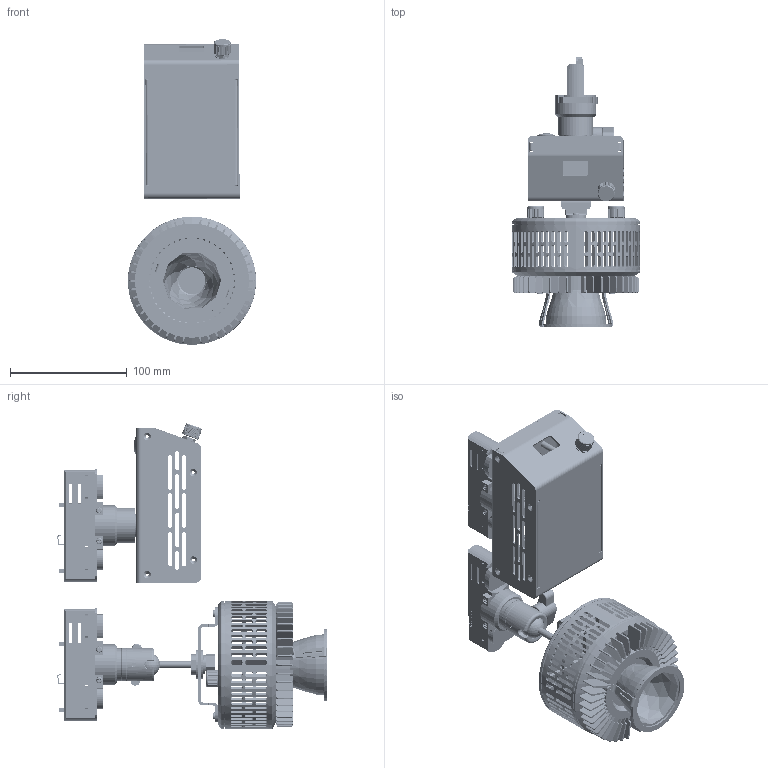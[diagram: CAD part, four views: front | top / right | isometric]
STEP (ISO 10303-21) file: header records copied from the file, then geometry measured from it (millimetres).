
FILE_DESCRIPTION (( 'STEP AP214' ), '1' );
FILE_NAME ('W360N-TEX-PSX.STEP', '2024-01-31T00:50:46', ( '' ), ( '' ), 'SwSTEP 2.0', 'SolidWorks 2022', '' );
FILE_SCHEMA (( 'AUTOMOTIVE_DESIGN' ));
Length unit declared in the file: millimetre
Products named in the file (38): 5022014-XYZ_A2_EUTRAC Multi Adapter_Finissh_2(No Locked); 5021926-XXX_A2_KNOB, 18T, OD=14.9, ID=6, L=10MM_C1; W360N-TEX-PSX; 5022453-XXX_A1_35D Sink Holder B, 71.2x62.2x31.1(H)mm___; 5022484-XXX_A1_Retaining Collar, M10xL10 P1.0, D30.0x31.1mm___; 5020897-2010216520_ _Helical Spring Washer Customized___; 62280-1363010_ _SCREW, M3x10mmL, PAN HEAD TORX WITH THREAD LOCK___; 5022375-XXX_A4_150W Power Box Frame, 132.5x82x56(H)mm___; 5021416_A1_Hex Nut, M10xP1.5, T8 SUS___; 5022398-XXX_A1_Plug for W Series, 19x10x9.4mm_For W360; 5022452-003_A3_Reflector Sink Holder, D108x14.35(H)mm (-004 is White)_-003(Black); 5120521-XXX_A2_Assembly BOM, W360 Light Engine_Finish; 5020893-3211020005_ _Flat Washer Customized, Nylon Black, ID11mm OD20mm T0.5mm___; 5022516-00031_A1_Button Type Round Hole Plug for KANG YANG, Black___; 5060069-XXX_A2_W series Reflector-35, OD=62, H=45mm___; 62280-5413010_ _SCREW, FLAT PAN HEAD, TORX W-THD LOCK, SUS-304, M3xL10mm___; 5020757-002_A2_VR Washer, Kessil A360 Aquarium Light___; 5022405-XXX_A1_Wing Knob Screws, M6xL8.0mm_-001; 5022431-XXX_A1_Ball Joint Part A, L=23.7mm___; 5120526-XXX_A2_Assembly BOM, W360 Reflector Type_Reflector - 35D; 5120511-XXX_A3_Assembly BOM, Power Box for W360_TOX-PS (2Circuits (9219-2S)); 5020893-2010525020_ _Flat Washer, M10, ID10.5 OD25.0, T2 SUS 304___; 62432-11100100140040_ _Hex Nuts Customized, M10 P1.0 S14 T4 W-Zinc___; 5021925_A1_PLATE, R=37.5, W=50, T=2MM___; 5022430-XXX_A1_Ball Joint Part C (For TDE), L=18.9mm___; 62280-2163006_ _SCREW, FLAT HEAD TORX W-THD LOCK, SUS-304, BLACK, M3.0 x L6.0mm___; 5022708-XXX_A2_Ball Joint Axis, L=65.8mm___; 5022399_A1_Fix Ball Joint Part for EUTRAC, D=28mm___; 5120533-XXX_A3_Housing, OD=110, ID=105, T=47.5mm, For Reflector___; 62282-5014005_ _Standard Types of Metric Set Screws, M4xL5, Black___; 5022445-XXX_A1_DC Plug for W Series, D=12mm_-002(Black); 5010176-XXX_A2_Assembly BOM, Kessil W360_35D-TSG; 5022376-XXX_A2_150W Power Box Cover, 132.5x79x54.5(H)mm, TEX-PSX Type_PSX; 5020757-001_A1_VR Nut, Kessil A360 Aquarium Light___; 5022693-XXX_A1_Bracket, 98.85x25x17.5, T=2.5mm___; 62280-1343006_ _SCREW, PAN HEAD TROX W-THD LOCK, SUS-410, BLACK, M3xL6mm___; 5120522-XXX_A3_Assembly BOM, W360&W500 Light Mounting Type_For W360_TSG; 5120532-XXX_A1_Rear Panel, OD=110, T=8.3mm, W-Series_____
Assembly tree (50 placements, depth 4):
  W360N-TEX-PSX
    5010176-XXX_A2_Assembly BOM, Kessil W360_35D-TSG
      5120521-XXX_A2_Assembly BOM, W360 Light Engine_Finish
        5120532-XXX_A1_Rear Panel, OD=110, T=8.3mm, W-Series_____
        5022445-XXX_A1_DC Plug for W Series, D=12mm_-002(Black)
        5022398-XXX_A1_Plug for W Series, 19x10x9.4mm_For W360
        62280-1363010_ _SCREW, M3x10mmL, PAN HEAD TORX WITH THREAD LOCK___  x2
        5020757-002_A2_VR Washer, Kessil A360 Aquarium Light___  x2
        5020757-001_A1_VR Nut, Kessil A360 Aquarium Light___  x2
        5021926-XXX_A2_KNOB, 18T, OD=14.9, ID=6, L=10MM_C1  x2
      5120526-XXX_A2_Assembly BOM, W360 Reflector Type_Reflector - 35D
        5120533-XXX_A3_Housing, OD=110, ID=105, T=47.5mm, For Reflector___
        5021925_A1_PLATE, R=37.5, W=50, T=2MM___
        62280-2163006_ _SCREW, FLAT HEAD TORX W-THD LOCK, SUS-304, BLACK, M3.0 x L6.0mm___  x2
        62280-1343006_ _SCREW, PAN HEAD TROX W-THD LOCK, SUS-410, BLACK, M3xL6mm___  x2
        5022452-003_A3_Reflector Sink Holder, D108x14.35(H)mm (-004 is White)_-003(Black)
        5022453-XXX_A1_35D Sink Holder B, 71.2x62.2x31.1(H)mm___
        5060069-XXX_A2_W series Reflector-35, OD=62, H=45mm___
        62280-5413010_ _SCREW, FLAT PAN HEAD, TORX W-THD LOCK, SUS-304, M3xL10mm___  x2
      5120522-XXX_A3_Assembly BOM, W360&W500 Light Mounting Type_For W360_TSG
        5022431-XXX_A1_Ball Joint Part A, L=23.7mm___
        5022430-XXX_A1_Ball Joint Part C (For TDE), L=18.9mm___
        5022708-XXX_A2_Ball Joint Axis, L=65.8mm___
        62282-5014005_ _Standard Types of Metric Set Screws, M4xL5, Black___
        5022405-XXX_A1_Wing Knob Screws, M6xL8.0mm_-001
        5022693-XXX_A1_Bracket, 98.85x25x17.5, T=2.5mm___
        5022014-XYZ_A2_EUTRAC Multi Adapter_Finissh_2(No Locked)
        5022399_A1_Fix Ball Joint Part for EUTRAC, D=28mm___
        5020893-2010525020_ _Flat Washer, M10, ID10.5 OD25.0, T2 SUS 304___  x2
        5020897-2010216520_ _Helical Spring Washer Customized___
        5021416_A1_Hex Nut, M10xP1.5, T8 SUS___
    5120511-XXX_A3_Assembly BOM, Power Box for W360_TOX-PS (2Circuits (9219-2S))
      5022375-XXX_A4_150W Power Box Frame, 132.5x82x56(H)mm___
      5022014-XYZ_A2_EUTRAC Multi Adapter_Finissh_2(No Locked)
      5022484-XXX_A1_Retaining Collar, M10xL10 P1.0, D30.0x31.1mm___
      5020893-3211020005_ _Flat Washer Customized, Nylon Black, ID11mm OD20mm T0.5mm___  x2
      5022516-00031_A1_Button Type Round Hole Plug for KANG YANG, Black___
      62432-11100100140040_ _Hex Nuts Customized, M10 P1.0 S14 T4 W-Zinc___
      5022376-XXX_A2_150W Power Box Cover, 132.5x79x54.5(H)mm, TEX-PSX Type_PSX
      5020757-002_A2_VR Washer, Kessil A360 Aquarium Light___
      5020757-001_A1_VR Nut, Kessil A360 Aquarium Light___
      5021926-XXX_A2_KNOB, 18T, OD=14.9, ID=6, L=10MM_C1
Bounding box: 110 x 231.23 x 262.3 mm (x, y, z)
Volume: 334970.9 mm3; surface area: 319580.9 mm2
Topology: 86 solids, 86 shells, 5891 faces, 16169 edges, 10507 vertices
Faces by surface type: plane 2758, cylinder 1905, bspline 747, cone 283, torus 164, sphere 34
Entity records: 197308 total; most frequent: CARTESIAN_POINT 63097, ORIENTED_EDGE 24180, DIRECTION 19236, EDGE_CURVE 12090, VERTEX_POINT 7866, VECTOR 6636, LINE 6636, AXIS2_PLACEMENT_3D 6300
